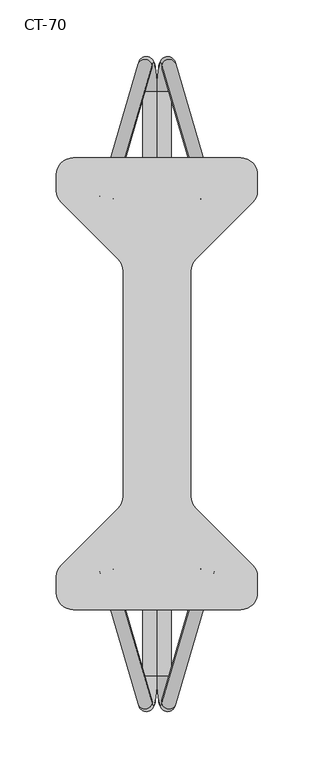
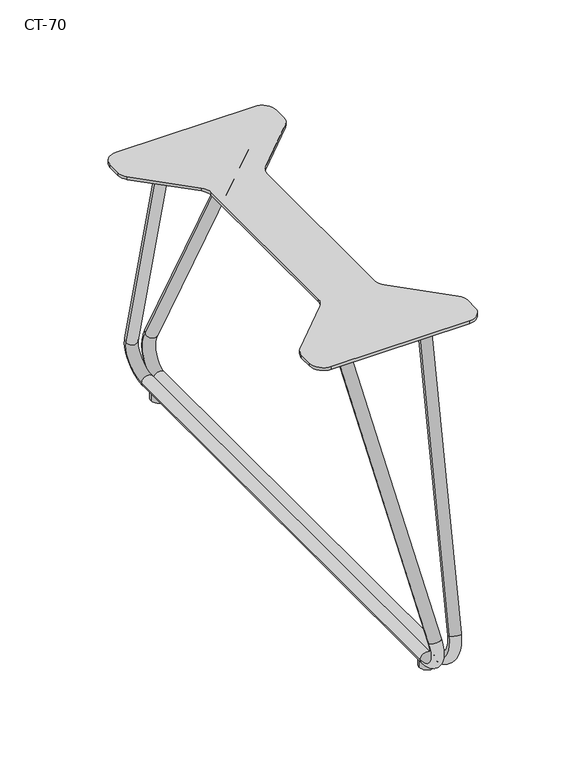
"""IFC4 building model written with IfcOpenShell, lengths in millimetres: furniture geometry, Davis_Furniture-Cantina-Backless_Bench_End : CT-70."""

import ifcopenshell
import ifcopenshell.guid

model = None  # the IFC model being written
_history = None  # IfcOwnerHistory: only IFC2X3 demands one
_inside = {}  # id of a spatial element -> (the spatial element, [elements in it])
_under = {}  # id of a project, library or spatial element -> (it, [spatial elements below it])
_declared = {}  # id of a project -> (the project, [libraries it declares])
_typed = {}  # id of a type object -> (the type object, [elements of that type])
_made_of = {}  # id of a material, layer set ... -> (it, [elements and type objects made of it])


def new_model(schema):
    """Start an empty IFC model of exactly this schema.

    Asked for "IFC4X3", IfcOpenShell would pick the latest addendum, in which some entities
    have other attributes; the version numbers below select the first issue.
    IFC2X3 requires an IfcOwnerHistory on every rooted entity: one is made here for all.
    """
    global model, _history
    if schema == "IFC4X3":
        model = ifcopenshell.file(schema_version=(4, 3, 0, 0))
    else:
        model = ifcopenshell.file(schema=schema)
    _inside.clear()
    _under.clear()
    _declared.clear()
    _typed.clear()
    _made_of.clear()
    _history = None
    if model.schema == "IFC2X3":
        org = make("IfcOrganization", Name="unknown")
        user = make(
            "IfcPersonAndOrganization",
            ThePerson=make("IfcPerson", FamilyName="unknown"),
            TheOrganization=org,
        )
        app = make(
            "IfcApplication",
            ApplicationDeveloper=org,
            Version="unknown",
            ApplicationFullName="unknown",
            ApplicationIdentifier="unknown",
        )
        _history = make(
            "IfcOwnerHistory",
            OwningUser=user,
            OwningApplication=app,
            ChangeAction="ADDED",
            CreationDate=0,
        )
    return model


def make(cls, **values):
    """One entity of the class cls with the attributes given. An attribute that is None is left unset."""
    return model.create_entity(
        cls, **{name: value for name, value in values.items() if value is not None}
    )


def rooted(cls, **values):
    """An entity with a GlobalId (a new one), such as an element, a storey or a relation."""
    return make(cls, GlobalId=ifcopenshell.guid.new(), OwnerHistory=_history, **values)


def si_unit(unit_type, name, prefix=None):
    """IfcSIUnit, for example si_unit("LENGTHUNIT", "METRE", prefix="MILLI")."""
    return make("IfcSIUnit", UnitType=unit_type, Prefix=prefix, Name=name)


def assignment(units):
    """IfcUnitAssignment: the units of a project."""
    return None if units is None else make("IfcUnitAssignment", Units=units)


def point(xyz):
    """IfcCartesianPoint."""
    return None if xyz is None else make("IfcCartesianPoint", Coordinates=xyz)


def direction(xyz):
    """IfcDirection."""
    return None if xyz is None else make("IfcDirection", DirectionRatios=xyz)


def frame(location, z_axis=None, x_axis=None):
    """IfcAxis2Placement3D, a coordinate frame: its origin and axes. An axis left out is left unset."""
    return make(
        "IfcAxis2Placement3D",
        Location=point(location),
        Axis=direction(z_axis),
        RefDirection=direction(x_axis),
    )


def frame_2d(location, x_axis=None):
    """IfcAxis2Placement2D, a coordinate frame in the plane: its origin and x axis."""
    return make(
        "IfcAxis2Placement2D", Location=point(location), RefDirection=direction(x_axis)
    )


def origin():
    """The frame at (0, 0, 0) with its axes left unset."""
    return frame((0.0, 0.0, 0.0))


def origin_with_axes():
    """The frame at (0, 0, 0) with the z axis (0, 0, 1) and the x axis (1, 0, 0) written out."""
    return frame((0.0, 0.0, 0.0), z_axis=(0.0, 0.0, 1.0), x_axis=(1.0, 0.0, 0.0))


def place(relative_to, where):
    """IfcLocalPlacement: puts the frame where relative to a parent placement (None: the world)."""
    return make(
        "IfcLocalPlacement", PlacementRelTo=relative_to, RelativePlacement=where
    )


def context(
    kind, dimensions, precision=None, world=None, true_north=None, identifier=None
):
    """IfcGeometricRepresentationContext, for example the 3D "Model" context."""
    return make(
        "IfcGeometricRepresentationContext",
        ContextIdentifier=identifier,
        ContextType=kind,
        CoordinateSpaceDimension=dimensions,
        Precision=precision,
        WorldCoordinateSystem=world,
        TrueNorth=true_north,
    )


def project(units=None, contexts=None):
    """IfcProject with its units and contexts."""
    return rooted(
        "IfcProject",
        Name="project",
        RepresentationContexts=contexts,
        UnitsInContext=assignment(units),
    )


def spatial(cls, under=None, at=None, **own):
    """A site, building, storey or space (cls), placed at a placement, below another one or the project."""
    s = rooted(cls, ObjectPlacement=at, **own)
    if under is not None:
        _under.setdefault(under.id(), (under, []))[1].append(s)
    return s


def polyline(points):
    """IfcPolyline through the points."""
    return make("IfcPolyline", Points=[point(p) for p in points])


def circle_curve(where, radius):
    """IfcCircle in the frame where."""
    return make("IfcCircle", Position=where, Radius=radius)


def ellipse_curve(where, semi_axis1, semi_axis2):
    """IfcEllipse in the frame where."""
    return make(
        "IfcEllipse", Position=where, SemiAxis1=semi_axis1, SemiAxis2=semi_axis2
    )


def trimmed(basis, trim1, trim2, sense, master):
    """IfcTrimmedCurve: the piece of a basis curve between two trims."""
    return make(
        "IfcTrimmedCurve",
        BasisCurve=basis,
        Trim1=trim1,
        Trim2=trim2,
        SenseAgreement=sense,
        MasterRepresentation=master,
    )


def segment(curve, same_sense, transition):
    """IfcCompositeCurveSegment."""
    return make(
        "IfcCompositeCurveSegment",
        Transition=transition,
        SameSense=same_sense,
        ParentCurve=curve,
    )


def composite_curve(segments, self_intersect=None):
    """IfcCompositeCurve: segments joined end to end."""
    return make("IfcCompositeCurve", Segments=segments, SelfIntersect=self_intersect)


def outline(outer, holes=None, kind="AREA"):
    """IfcArbitraryClosedProfileDef: a profile drawn as a closed curve; with holes, ...WithVoids."""
    if holes is None:
        return make("IfcArbitraryClosedProfileDef", ProfileType=kind, OuterCurve=outer)
    return make(
        "IfcArbitraryProfileDefWithVoids",
        ProfileType=kind,
        OuterCurve=outer,
        InnerCurves=holes,
    )


def extrude(swept, where, along, depth):
    """IfcExtrudedAreaSolid: the profile swept, set in the frame where, extruded along a direction by depth."""
    return make(
        "IfcExtrudedAreaSolid",
        SweptArea=swept,
        Position=where,
        ExtrudedDirection=direction(along),
        Depth=depth,
    )


def shape(context_of_items, identifier, shape_type, items):
    """IfcShapeRepresentation: the items that make up one representation, for example the "Body"."""
    return make(
        "IfcShapeRepresentation",
        ContextOfItems=context_of_items,
        RepresentationIdentifier=identifier,
        RepresentationType=shape_type,
        Items=items,
    )


def source(mapping_origin, context_of_items, identifier, shape_type, items):
    """IfcRepresentationMap: a shape defined once, which mapped items show again and again."""
    return make(
        "IfcRepresentationMap",
        MappingOrigin=mapping_origin,
        MappedRepresentation=shape(context_of_items, identifier, shape_type, items),
    )


def transform(
    local_origin,
    x_axis=None,
    y_axis=None,
    z_axis=None,
    scale=None,
    scale2=None,
    scale3=None,
    uniform=True,
):
    """IfcCartesianTransformationOperator3D, or its non-uniform kind. x_axis, y_axis, z_axis: its Axis1, 2, 3."""
    if uniform:
        return make(
            "IfcCartesianTransformationOperator3D",
            Axis1=direction(x_axis),
            Axis2=direction(y_axis),
            LocalOrigin=point(local_origin),
            Scale=scale,
            Axis3=direction(z_axis),
        )
    return make(
        "IfcCartesianTransformationOperator3DnonUniform",
        Axis1=direction(x_axis),
        Axis2=direction(y_axis),
        LocalOrigin=point(local_origin),
        Scale=scale,
        Axis3=direction(z_axis),
        Scale2=scale2,
        Scale3=scale3,
    )


def mapped(mapping_source, mapping_target):
    """IfcMappedItem: shows the shape of a source again, moved by a transform."""
    return make(
        "IfcMappedItem", MappingSource=mapping_source, MappingTarget=mapping_target
    )


def made_of(thing, what):
    """Note that an element or type object is made of a material, layer set ...; save() writes the relation."""
    if what is not None:
        _made_of.setdefault(what.id(), (what, []))[1].append(thing)
    return thing


def element(
    cls,
    number,
    at=None,
    inside=None,
    cuts=None,
    type_object=None,
    material=None,
    context=None,
    identifier="Body",
    shape_type=None,
    held_by="IfcProductDefinitionShape",
    body=None,
    shapes=None,
    **own,
):
    """One element of the class cls, such as IfcWall. Its Tag is "e" and its number.

    at: its placement. inside: the storey or other place that contains it. cuts: it is an
    opening in that element (IfcRelVoidsElement). A single representation is given by context,
    identifier, shape_type and body (its items); several are given by shapes. held_by: the class
    of the entity that holds the representations. save() writes the other relations.
    """
    e = rooted(cls, Tag="e%d" % number, ObjectPlacement=at, **own)
    if body is not None:
        shapes = [shape(context, identifier, shape_type, body)]
    if shapes is not None:
        e.Representation = make(held_by, Representations=shapes)
    if inside is not None:
        _inside.setdefault(inside.id(), (inside, []))[1].append(e)
    if cuts is not None:
        rooted(
            "IfcRelVoidsElement", RelatingBuildingElement=cuts, RelatedOpeningElement=e
        )
    if type_object is not None:
        _typed.setdefault(type_object.id(), (type_object, []))[1].append(e)
    return made_of(e, material)


def aggregate(whole, parts):
    """IfcRelAggregates: a whole, such as a stair, and the parts it consists of."""
    return rooted("IfcRelAggregates", RelatingObject=whole, RelatedObjects=parts)


def save(model, path):
    """Write the relations noted so far, then the file.

    IfcRelAggregates (storeys below a building ...), IfcRelContainedInSpatialStructure (elements
    in a storey), IfcRelDefinesByType, IfcRelAssociatesMaterial and IfcRelDeclares: one each for
    every whole, place, type object, material and project.
    """
    for whole, parts in _under.values():
        aggregate(whole, parts)
    for where, things in _inside.values():
        rooted(
            "IfcRelContainedInSpatialStructure",
            RelatedElements=things,
            RelatingStructure=where,
        )
    for kind, things in _typed.values():
        rooted("IfcRelDefinesByType", RelatedObjects=things, RelatingType=kind)
    for what, things in _made_of.values():
        rooted("IfcRelAssociatesMaterial", RelatedObjects=things, RelatingMaterial=what)
    for by, libraries in _declared.values():
        rooted("IfcRelDeclares", RelatingContext=by, RelatedDefinitions=libraries)
    model.write(path)


def plane_surface(at):
    """IfcPlane: the flat surface through the origin of the frame at, square to its z axis."""
    return make("IfcPlane", Position=at)


def cylinder_surface(at, radius):
    """IfcCylindricalSurface: all points at the distance radius from the z axis of the frame at."""
    return make("IfcCylindricalSurface", Position=at, Radius=radius)


def revolved_surface(curve, axis_point, axis_direction):
    """IfcSurfaceOfRevolution: the curve turned about the line through axis_point along axis_direction."""
    return make(
        "IfcSurfaceOfRevolution",
        SweptCurve=make("IfcArbitraryOpenProfileDef", ProfileType="CURVE", Curve=curve),
        AxisPosition=make("IfcAxis1Placement", Location=point(axis_point), Axis=direction(axis_direction)),
    )


def advanced_brep(points, edges, surfaces, faces):
    """IfcAdvancedBrep: a solid bounded by faces that lie on surfaces and meet in shared edges.

    An edge is (start, end): straight between two places in points (the first is 0);
    or (start, end, curve); or (start, end, curve, False) where it runs against its curve.
    A face is (place in surfaces, loops), or (place, loops, False) where it looks against
    its surface's normal. A loop lists edges by number (the first is 1), with a minus sign
    where the edge is run from its end to its start. The first loop is the outer one.
    """
    corners = [point(p) for p in points]
    vertices = [make("IfcVertexPoint", VertexGeometry=c) for c in corners]
    made = []
    for start, end, *more in edges:
        made.append(
            make(
                "IfcEdgeCurve",
                EdgeStart=vertices[start],
                EdgeEnd=vertices[end],
                EdgeGeometry=more[0] if more else make("IfcPolyline", Points=[corners[start], corners[end]]),
                SameSense=more[1] if len(more) > 1 else True,
            )
        )
    hull = []
    for where, loops, *sense in faces:
        bounds = []
        for j, loop in enumerate(loops):
            ring = [make("IfcOrientedEdge", EdgeElement=made[abs(k) - 1], Orientation=k > 0) for k in loop]
            bounds.append(
                make(
                    "IfcFaceOuterBound" if j == 0 else "IfcFaceBound",
                    Bound=make("IfcEdgeLoop", EdgeList=ring),
                    Orientation=True,
                )
            )
        hull.append(make("IfcAdvancedFace", Bounds=bounds, FaceSurface=surfaces[where], SameSense=sense[0] if sense else True))
    return make("IfcAdvancedBrep", Outer=make("IfcClosedShell", CfsFaces=hull))


def ct_70_a392665e(model_context):
    return source(origin(), model_context, "Body", "SolidModel", [
        advanced_brep(
        [(347.2476455, -282.4506802, 51.3019909), (381.5568189, -164.8696131, 330.7277844), (394.2568189, -162.5458754, 330.7277844), (359.6863293, -281.0225001, 49.1737411), (355.5955294, -258.6649172, 15.8568497), (342.8955294, -258.6649172, 15.8568497), (355.5955294, 258.6649172, 15.8568497), (342.8955294, 258.6649172, 15.8568497), (359.6863293, 281.0225001, 49.1737411), (347.2476455, 282.4506802, 51.3019909), (394.2568189, 162.5458754, 330.7277844), (381.5568189, 164.8696131, 330.7277844)],
        [
            (0, 1),
            (1, 2, ellipse_curve(frame((387.9068189, -163.7077443, 330.7277844), z_axis=(0.0, 0.0, -1.0), x_axis=(0.28011057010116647, 0.9599677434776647, 0.0)), 6.9332717, 6.35)),
            (2, 3),
            (3, 0, circle_curve(frame((353.4669874, -281.7365901, 50.237866), z_axis=(0.112455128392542, 0.3853952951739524, 0.9158735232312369), x_axis=(-0.9794239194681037, -0.11245512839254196, 0.16757872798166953)), 6.35)),
            (2, 1, ellipse_curve(frame((387.9068189, -163.7077443, 330.7277844), z_axis=(0.0, 0.0, -1.0), x_axis=(0.28011057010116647, 0.9599677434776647, 0.0)), 6.9332717, 6.35)),
            (0, 3, circle_curve(frame((353.4669874, -281.7365901, 50.237866), z_axis=(0.112455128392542, 0.3853952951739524, 0.9158735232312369), x_axis=(-0.9794239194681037, -0.11245512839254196, 0.16757872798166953)), 6.35)),
            (3, 4, circle_curve(frame((358.5483328, -258.6649172, 39.9055032), z_axis=(0.9925461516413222, 0.0, -0.12186934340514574), x_axis=(0.046967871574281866, -0.9227515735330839, 0.38252261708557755)), 24.2292547)),
            (4, 5, circle_curve(frame((349.2455294, -258.6649172, 15.8568497), z_axis=(0.0, -1.0, 0.0), x_axis=(-1.0, 0.0, 0.0)), 6.35)),
            (5, 0, circle_curve(frame((346.0369549, -258.6649172, 41.4417072), z_axis=(-0.9925461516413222, 0.0, 0.12186934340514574), x_axis=(0.046967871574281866, -0.9227515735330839, 0.38252261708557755)), 25.7769953)),
            (5, 4, circle_curve(frame((349.2455294, -258.6649172, 15.8568497), z_axis=(0.0, -1.0, 0.0), x_axis=(-1.0, 0.0, 0.0)), 6.35)),
            (4, 6),
            (6, 7, circle_curve(frame((349.2455294, 258.6649172, 15.8568497), z_axis=(0.0, -1.0, 0.0), x_axis=(-1.0, 0.0, 0.0)), 6.35)),
            (7, 5),
            (7, 6, circle_curve(frame((349.2455294, 258.6649172, 15.8568497), z_axis=(0.0, -1.0, 0.0), x_axis=(-1.0, 0.0, 0.0)), 6.35)),
            (6, 8, circle_curve(frame((358.5483328, 258.6649172, 39.9055032), z_axis=(0.9925461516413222, 0.0, -0.12186934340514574), x_axis=(-0.12186934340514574, 0.0, -0.9925461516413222)), 24.2292547)),
            (8, 9, circle_curve(frame((353.4669874, 281.7365901, 50.237866), z_axis=(-0.11245512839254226, 0.38539529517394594, -0.9158735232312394), x_axis=(-0.9794239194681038, 0.11245512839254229, 0.16757872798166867)), 6.35)),
            (9, 7, circle_curve(frame((346.0369549, 258.6649172, 41.4417072), z_axis=(-0.9925461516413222, 0.0, 0.12186934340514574), x_axis=(-0.12186934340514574, 0.0, -0.9925461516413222)), 25.7769953)),
            (9, 8, circle_curve(frame((353.4669874, 281.7365901, 50.237866), z_axis=(-0.11245512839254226, 0.38539529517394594, -0.9158735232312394), x_axis=(-0.9794239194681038, 0.11245512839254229, 0.16757872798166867)), 6.35)),
            (8, 10),
            (10, 11, ellipse_curve(frame((387.9068189, 163.7077443, 330.7277844), z_axis=(0.0, 0.0, -1.0), x_axis=(-0.28011057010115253, 0.9599677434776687, 0.0)), 6.9332717, 6.35)),
            (11, 9),
            (11, 10, ellipse_curve(frame((387.9068189, 163.7077443, 330.7277844), z_axis=(0.0, 0.0, -1.0), x_axis=(-0.28011057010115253, 0.9599677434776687, 0.0)), 6.9332717, 6.35)),
        ],
        [
            cylinder_surface(frame((389.0405198, -159.8224344, 339.9610379), z_axis=(0.112455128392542, 0.3853952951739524, 0.9158735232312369), x_axis=(-0.9794239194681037, -0.11245512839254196, 0.16757872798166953)), 6.35),
            revolved_surface(trimmed(ellipse_curve(frame((353.4669874, -281.7365901, 50.237866), z_axis=(-0.11245512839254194, -0.38539529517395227, -0.9158735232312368), x_axis=(-0.9794239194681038, -0.112455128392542, 0.1675787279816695)), 6.35, 6.35), [point((347.2476455, -282.4506802, 51.3019909))], [point((359.6863293, -281.0225001, 49.1737411))], True, "CARTESIAN"), (405.2582375, -258.6649172, 34.170248), (-0.9925461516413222, 0.0, 0.12186934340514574)),
            revolved_surface(trimmed(ellipse_curve(frame((353.4669874, -281.7365901, 50.237866), z_axis=(-0.11245512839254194, -0.38539529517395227, -0.9158735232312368), x_axis=(-0.9794239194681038, -0.112455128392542, 0.1675787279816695)), 6.35, 6.35), [point((359.6863293, -281.0225001, 49.1737411))], [point((347.2476455, -282.4506802, 51.3019909))], True, "CARTESIAN"), (405.2582375, -258.6649172, 34.170248), (-0.9925461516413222, 0.0, 0.12186934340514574)),
            cylinder_surface(frame((349.2455294, -258.6649172, 15.8568497), z_axis=(0.0, -1.0, 0.0), x_axis=(-1.0, 0.0, 0.0)), 6.35),
            revolved_surface(trimmed(ellipse_curve(frame((349.2455294, 258.6649172, 15.8568497), z_axis=(0.0, 1.0, 0.0), x_axis=(-1.0, 0.0, 0.0)), 6.35, 6.35), [point((342.8955294, 258.6649172, 15.8568497))], [point((355.5955294, 258.6649172, 15.8568497))], True, "CARTESIAN"), (405.2582375, 258.6649172, 34.170248), (-0.9925461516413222, 0.0, 0.12186934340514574)),
            revolved_surface(trimmed(ellipse_curve(frame((349.2455294, 258.6649172, 15.8568497), z_axis=(0.0, 1.0, 0.0), x_axis=(-1.0, 0.0, 0.0)), 6.35, 6.35), [point((355.5955294, 258.6649172, 15.8568497))], [point((342.8955294, 258.6649172, 15.8568497))], True, "CARTESIAN"), (405.2582375, 258.6649172, 34.170248), (-0.9925461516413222, 0.0, 0.12186934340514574)),
            cylinder_surface(frame((353.4669874, 281.7365901, 50.237866), z_axis=(-0.11245512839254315, 0.38539529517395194, -0.9158735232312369), x_axis=(-0.9794239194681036, 0.11245512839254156, 0.1675787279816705)), 6.35),
            plane_surface(frame((282.575, 184.15, 330.7277844), z_axis=(0.0, 0.0, 1.0), x_axis=(0.0, -1.0, 0.0))),
        ],
        [
            (0, [[1, 2, 3, 4]]),
            (0, [[-3, 5, -1, 6]]),
            (1, [[7, 8, 9, -4]]),
            (2, [[-9, 10, -7, -6]]),
            (3, [[11, 12, 13, -8]]),
            (3, [[-13, 14, -11, -10]]),
            (4, [[15, 16, 17, -12]]),
            (5, [[-17, 18, -15, -14]]),
            (6, [[19, 20, 21, -16]]),
            (6, [[-21, 22, -19, -18]]),
            (7, [[-5, -2]]),
            (7, [[-22, -20]]),
        ],
    ),
        advanced_brep(
        [(326.1136707, -281.0225001, 49.1737411), (291.5431811, -162.5458754, 330.7277844), (304.2431811, -164.8696131, 330.7277844), (338.5523545, -282.4506802, 51.3019909), (342.9044706, -258.6649172, 15.8568497), (330.2044706, -258.6649172, 15.8568497), (342.9044706, 258.6649172, 15.8568497), (330.2044706, 258.6649172, 15.8568497), (338.5523545, 282.4506802, 51.3019909), (326.1136707, 281.0225001, 49.1737411), (304.2431811, 164.8696131, 330.7277844), (291.5431811, 162.5458754, 330.7277844)],
        [
            (0, 1),
            (1, 2, ellipse_curve(frame((297.8931811, -163.7077443, 330.7277844), z_axis=(0.0, 0.0, -1.0), x_axis=(-0.28011057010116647, 0.9599677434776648, 0.0)), 6.9332717, 6.35)),
            (2, 3),
            (3, 0, circle_curve(frame((332.3330126, -281.7365901, 50.237866), z_axis=(-0.11245512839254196, 0.38539529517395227, 0.915873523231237), x_axis=(0.9794239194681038, -0.11245512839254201, 0.1675787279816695)), 6.35)),
            (2, 1, ellipse_curve(frame((297.8931811, -163.7077443, 330.7277844), z_axis=(0.0, 0.0, -1.0), x_axis=(-0.28011057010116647, 0.9599677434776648, 0.0)), 6.9332717, 6.35)),
            (0, 3, circle_curve(frame((332.3330126, -281.7365901, 50.237866), z_axis=(-0.11245512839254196, 0.38539529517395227, 0.915873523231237), x_axis=(0.9794239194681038, -0.11245512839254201, 0.1675787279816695)), 6.35)),
            (3, 4, circle_curve(frame((339.7630451, -258.6649172, 41.4417072), z_axis=(0.9925461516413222, 0.0, 0.12186934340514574), x_axis=(-0.046967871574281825, -0.9227515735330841, 0.38252261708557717)), 25.7769953)),
            (4, 5, circle_curve(frame((336.5544706, -258.6649172, 15.8568497), z_axis=(0.0, -1.0000000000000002, 0.0), x_axis=(1.0, 0.0, 0.0)), 6.35)),
            (5, 0, circle_curve(frame((327.2516672, -258.6649172, 39.9055032), z_axis=(-0.9925461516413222, 0.0, -0.12186934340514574), x_axis=(-0.046967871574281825, -0.9227515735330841, 0.38252261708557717)), 24.2292547)),
            (5, 4, circle_curve(frame((336.5544706, -258.6649172, 15.8568497), z_axis=(0.0, -1.0000000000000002, 0.0), x_axis=(1.0, 0.0, 0.0)), 6.35)),
            (4, 6),
            (6, 7, circle_curve(frame((336.5544706, 258.6649172, 15.8568497), z_axis=(0.0, -1.0, 0.0), x_axis=(1.0, 0.0, 0.0)), 6.35)),
            (7, 5),
            (7, 6, circle_curve(frame((336.5544706, 258.6649172, 15.8568497), z_axis=(0.0, -1.0, 0.0), x_axis=(1.0, 0.0, 0.0)), 6.35)),
            (6, 8, circle_curve(frame((339.7630451, 258.6649172, 41.4417072), z_axis=(0.9925461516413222, 0.0, 0.12186934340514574), x_axis=(0.12186934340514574, 0.0, -0.9925461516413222)), 25.7769953)),
            (8, 9, circle_curve(frame((332.3330126, 281.7365901, 50.237866), z_axis=(0.11245512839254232, 0.3853952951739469, -0.915873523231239), x_axis=(0.9794239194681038, 0.11245512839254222, 0.1675787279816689)), 6.35)),
            (9, 7, circle_curve(frame((327.2516672, 258.6649172, 39.9055032), z_axis=(-0.9925461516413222, 0.0, -0.12186934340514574), x_axis=(0.12186934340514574, 0.0, -0.9925461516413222)), 24.2292547)),
            (9, 8, circle_curve(frame((332.3330126, 281.7365901, 50.237866), z_axis=(0.11245512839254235, 0.3853952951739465, -0.9158735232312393), x_axis=(0.9794239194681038, 0.11245512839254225, 0.16757872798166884)), 6.35)),
            (8, 10),
            (10, 11, ellipse_curve(frame((297.8931811, 163.7077443, 330.7277844), z_axis=(0.0, 0.0, -1.0), x_axis=(0.2801105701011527, 0.9599677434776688, 0.0)), 6.9332717, 6.35)),
            (11, 9),
            (11, 10, ellipse_curve(frame((297.8931811, 163.7077443, 330.7277844), z_axis=(0.0, 0.0, -1.0), x_axis=(0.2801105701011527, 0.9599677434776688, 0.0)), 6.9332717, 6.35)),
        ],
        [
            cylinder_surface(frame((296.7594802, -159.8224344, 339.9610379), z_axis=(-0.11245512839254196, 0.38539529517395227, 0.915873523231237), x_axis=(0.9794239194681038, -0.11245512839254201, 0.1675787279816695)), 6.35),
            revolved_surface(trimmed(ellipse_curve(frame((332.3330126, -281.7365901, 50.237866), z_axis=(0.11245512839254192, -0.385395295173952, -0.9158735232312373), x_axis=(0.9794239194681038, -0.11245512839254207, 0.1675787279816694)), 6.35, 6.35), [point((326.1136707, -281.0225001, 49.1737411))], [point((338.5523545, -282.4506802, 51.3019909))], True, "CARTESIAN"), (280.5417625, -258.6649172, 34.170248), (-0.9925461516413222, 0.0, -0.12186934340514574)),
            revolved_surface(trimmed(ellipse_curve(frame((332.3330126, -281.7365901, 50.237866), z_axis=(0.11245512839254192, -0.385395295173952, -0.9158735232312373), x_axis=(0.9794239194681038, -0.11245512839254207, 0.1675787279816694)), 6.35, 6.35), [point((338.5523545, -282.4506802, 51.3019909))], [point((326.1136707, -281.0225001, 49.1737411))], True, "CARTESIAN"), (280.5417625, -258.6649172, 34.170248), (-0.9925461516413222, 0.0, -0.12186934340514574)),
            cylinder_surface(frame((336.5544706, -258.6649172, 15.8568497), z_axis=(0.0, -1.0, 0.0), x_axis=(1.0, 0.0, 0.0)), 6.35),
            revolved_surface(trimmed(ellipse_curve(frame((336.5544706, 258.6649172, 15.8568497), z_axis=(0.0, 1.0, 0.0), x_axis=(1.0, 0.0, 0.0)), 6.35, 6.35), [point((330.2044706, 258.6649172, 15.8568497))], [point((342.9044706, 258.6649172, 15.8568497))], True, "CARTESIAN"), (280.5417625, 258.6649172, 34.170248), (-0.9925461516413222, 0.0, -0.12186934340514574)),
            revolved_surface(trimmed(ellipse_curve(frame((336.5544706, 258.6649172, 15.8568497), z_axis=(0.0, 1.0, 0.0), x_axis=(1.0, 0.0, 0.0)), 6.35, 6.35), [point((342.9044706, 258.6649172, 15.8568497))], [point((330.2044706, 258.6649172, 15.8568497))], True, "CARTESIAN"), (280.5417625, 258.6649172, 34.170248), (-0.9925461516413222, 0.0, -0.12186934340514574)),
            cylinder_surface(frame((332.3330126, 281.7365901, 50.237866), z_axis=(0.11245512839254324, 0.38539529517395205, -0.9158735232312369), x_axis=(0.9794239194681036, 0.11245512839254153, 0.16757872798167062)), 6.35),
            plane_surface(frame((282.575, 184.15, 330.7277844), z_axis=(0.0, 0.0, 1.0), x_axis=(0.0, -1.0, 0.0))),
        ],
        [
            (0, [[1, 2, 3, 4]]),
            (0, [[-3, 5, -1, 6]]),
            (1, [[7, 8, 9, -4]]),
            (2, [[-9, 10, -7, -6]]),
            (3, [[11, 12, 13, -8]]),
            (3, [[-13, 14, -11, -10]]),
            (4, [[15, 16, 17, -12]]),
            (5, [[-17, 18, -15, -14]]),
            (6, [[19, 20, 21, -16]]),
            (6, [[-21, 22, -19, -18]]),
            (7, [[-5, -2]]),
            (7, [[-22, -20]]),
        ],
    ),
        extrude(outline(composite_curve([segment(polyline([(416.9179687, -199.8000002), (268.8566061, -199.8000002)]), True, "CONTINUOUS"), segment(trimmed(circle_curve(frame_2d((268.8566061, -184.8433942)), 14.956606), [point((268.8566061, -199.8000002))], [point((253.9000001, -184.8433942))], False, "CARTESIAN"), True, "CONTINUOUS"), segment(polyline([(253.9000001, -184.8433942), (253.9000001, -170.3815798)]), True, "CONTINUOUS"), segment(trimmed(circle_curve(frame_2d((267.8898438, -170.3815798)), 13.9898438), [point((253.9000001, -170.3815798))], [point((257.9975304, -160.4892664))], False, "CARTESIAN"), True, "CONTINUOUS"), segment(polyline([(257.9975304, -160.4892664), (308.6098227, -109.8769742)]), True, "CONTINUOUS"), segment(trimmed(circle_curve(frame_2d((298.2524182, -99.5195697)), 14.6475818), [point((308.6098227, -109.8769742))], [point((312.9000001, -99.5195697))], True, "CARTESIAN"), True, "CONTINUOUS"), segment(polyline([(312.9000001, -99.5195697), (312.9000001, 99.9043293)]), True, "CONTINUOUS"), segment(trimmed(circle_curve(frame_2d((298.2156251, 99.9043293)), 14.684375), [point((312.9000001, 99.9043293))], [point((308.5990462, 110.2877505))], True, "CARTESIAN"), True, "CONTINUOUS"), segment(polyline([(308.5990462, 110.2877505), (257.9975304, 160.8892662)]), True, "CONTINUOUS"), segment(trimmed(circle_curve(frame_2d((267.8898438, 170.7815796)), 13.9898437), [point((257.9975304, 160.8892662))], [point((253.9000001, 170.7815796))], False, "CARTESIAN"), True, "CONTINUOUS"), segment(polyline([(253.9000001, 170.7815796), (253.9000001, 185.243394)]), True, "CONTINUOUS"), segment(trimmed(circle_curve(frame_2d((268.8566061, 185.243394)), 14.956606), [point((253.9000001, 185.243394))], [point((268.8566061, 200.2))], False, "CARTESIAN"), True, "CONTINUOUS"), segment(polyline([(268.8566061, 200.2), (416.9179687, 200.2)]), True, "CONTINUOUS"), segment(trimmed(circle_curve(frame_2d((416.9179687, 185.2179688)), 14.9820313), [point((416.9179687, 200.2))], [point((431.8999999, 185.2179688))], False, "CARTESIAN"), True, "CONTINUOUS"), segment(polyline([(431.8999999, 185.2179688), (431.8999999, 170.7884191)]), True, "CONTINUOUS"), segment(trimmed(circle_curve(frame_2d((417.8936443, 170.7884191)), 14.0063557), [point((431.8999999, 170.7884191))], [point((427.7976333, 160.88443))], False, "CARTESIAN"), True, "CONTINUOUS"), segment(polyline([(427.7976333, 160.88443), (377.2009538, 110.2877505)]), True, "CONTINUOUS"), segment(trimmed(circle_curve(frame_2d((387.5843749, 99.9043293)), 14.684375), [point((377.2009538, 110.2877505))], [point((372.8999999, 99.9043293))], True, "CARTESIAN"), True, "CONTINUOUS"), segment(polyline([(372.8999999, 99.9043293), (372.8999999, -99.5043295)]), True, "CONTINUOUS"), segment(trimmed(circle_curve(frame_2d((387.5843749, -99.5043295)), 14.684375), [point((372.8999999, -99.5043295))], [point((377.2009538, -109.8877506))], True, "CARTESIAN"), True, "CONTINUOUS"), segment(polyline([(377.2009538, -109.8877506), (427.7976333, -160.4844302)]), True, "CONTINUOUS"), segment(trimmed(circle_curve(frame_2d((417.8936443, -170.3884193)), 14.0063557), [point((427.7976333, -160.4844302))], [point((431.8999999, -170.3884193))], False, "CARTESIAN"), True, "CONTINUOUS"), segment(polyline([(431.8999999, -170.3884193), (431.8999999, -184.8179689)]), True, "CONTINUOUS"), segment(trimmed(circle_curve(frame_2d((416.9179687, -184.8179689)), 14.9820312), [point((431.8999999, -184.8179689))], [point((416.9179687, -199.8000002))], False, "CARTESIAN"), True, "CONTINUOUS")], self_intersect=False)), frame((0.0, 0.0, 330.7277844), z_axis=(0.0, 0.0, 1.0), x_axis=(1.0, 0.0, 0.0)), (0.0, 0.0, 1.0), 3.1724353),
        extrude(outline(composite_curve([segment(trimmed(circle_curve(frame_2d((342.9, 249.0853635)), 8.5328125), [point((334.3671875, 249.0853635))], [point((351.4328125, 249.0853635))], False, "CARTESIAN"), True, "CONTINUOUS"), segment(trimmed(circle_curve(frame_2d((342.9, 249.0853635)), 8.5328125), [point((351.4328125, 249.0853635))], [point((334.3671875, 249.0853635))], False, "CARTESIAN"), True, "CONTINUOUS")], self_intersect=False)), origin_with_axes(), (0.0, 0.0, 1.0), 9.5168817),
        extrude(outline(composite_curve([segment(trimmed(circle_curve(frame_2d((342.9, -249.0853635)), 8.5328125), [point((334.3671875, -249.0853635))], [point((351.4328125, -249.0853635))], False, "CARTESIAN"), True, "CONTINUOUS"), segment(trimmed(circle_curve(frame_2d((342.9, -249.0853635)), 8.5328125), [point((351.4328125, -249.0853635))], [point((334.3671875, -249.0853635))], False, "CARTESIAN"), True, "CONTINUOUS")], self_intersect=False)), origin_with_axes(), (0.0, 0.0, 1.0), 9.5168817),
    ])


if __name__ == "__main__":
    model = new_model("IFC4")
    model_context = context("Model", 3, world=origin())
    ifc_project = project(units=[si_unit("LENGTHUNIT", "METRE", prefix="MILLI")], contexts=[model_context])
    site = spatial("IfcSite", under=ifc_project)
    building = spatial("IfcBuilding", under=site)
    placement = place(None, origin())
    ct_70_shape = ct_70_a392665e(model_context)
    element("IfcFurniture", 1, ObjectType="Davis_Furniture-Cantina-Backless_Bench_End : CT-70", at=placement, inside=building, context=model_context, shape_type="MappedRepresentation", body=[
        mapped(ct_70_shape, transform((0.0, 0.0, 0.0), x_axis=(1.0, 0.0, 0.0), y_axis=(0.0, 1.0, 0.0), z_axis=(0.0, 0.0, 1.0))),
    ])
    save(model, "model.ifc")
